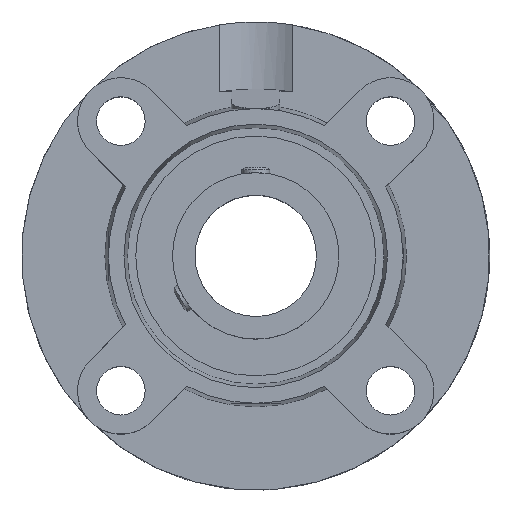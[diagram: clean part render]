
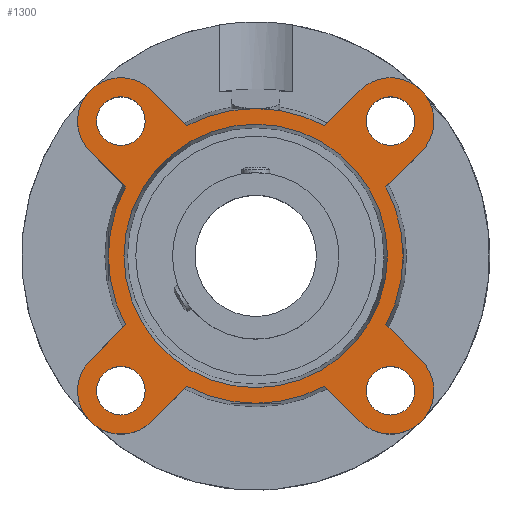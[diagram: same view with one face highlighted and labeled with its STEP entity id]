
A CAD part, top view. The second image highlights one B-rep face of the part: STEP entity #1300.
In plain terms, the highlighted planar face has unit normal (0, 0, 1).
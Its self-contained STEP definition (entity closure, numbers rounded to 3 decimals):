
#123=CARTESIAN_POINT('',(-31.891,-38.891,18.0));
#124=VERTEX_POINT('',#123);
#125=CARTESIAN_POINT('',(-38.891,-38.891,18.));
#126=DIRECTION('',(0.0,0.0,-1.0));
#127=DIRECTION('',(1.0,0.0,0.0));
#128=AXIS2_PLACEMENT_3D('',#125,#126,#127);
#129=CIRCLE('',#128,7.);
#130=EDGE_CURVE('',#124,#124,#129,.T.);
#151=CARTESIAN_POINT('',(-31.891,38.891,18.));
#152=VERTEX_POINT('',#151);
#153=CARTESIAN_POINT('',(-38.891,38.891,18.));
#154=DIRECTION('',(0.0,0.0,-1.0));
#155=DIRECTION('',(1.0,0.0,0.0));
#156=AXIS2_PLACEMENT_3D('',#153,#154,#155);
#157=CIRCLE('',#156,7.);
#158=EDGE_CURVE('',#152,#152,#157,.T.);
#179=CARTESIAN_POINT('',(45.891,38.891,18.));
#180=VERTEX_POINT('',#179);
#181=CARTESIAN_POINT('',(38.891,38.891,18.));
#182=DIRECTION('',(0.0,0.0,-1.0));
#183=DIRECTION('',(1.0,0.0,0.0));
#184=AXIS2_PLACEMENT_3D('',#181,#182,#183);
#185=CIRCLE('',#184,7.);
#186=EDGE_CURVE('',#180,#180,#185,.T.);
#207=CARTESIAN_POINT('',(45.891,-38.891,18.0));
#208=VERTEX_POINT('',#207);
#209=CARTESIAN_POINT('',(38.891,-38.891,18.));
#210=DIRECTION('',(0.0,0.0,-1.0));
#211=DIRECTION('',(1.0,0.0,0.0));
#212=AXIS2_PLACEMENT_3D('',#209,#210,#211);
#213=CIRCLE('',#212,7.);
#214=EDGE_CURVE('',#208,#208,#213,.T.);
#312=CARTESIAN_POINT('',(0.0,38.0,18.));
#313=VERTEX_POINT('',#312);
#314=CARTESIAN_POINT('',(0.0,0.,18.));
#315=DIRECTION('',(0.0,0.0,-1.0));
#316=DIRECTION('',(0.0,1.0,0.0));
#317=AXIS2_PLACEMENT_3D('',#314,#315,#316);
#318=CIRCLE('',#317,38.);
#319=EDGE_CURVE('',#313,#313,#318,.T.);
#601=CARTESIAN_POINT('',(0.,42.5,18.));
#602=VERTEX_POINT('',#601);
#756=CARTESIAN_POINT('',(-19.884,37.562,18.));
#757=VERTEX_POINT('',#756);
#771=CARTESIAN_POINT('',(0.0,0.,18.));
#772=DIRECTION('',(0.0,0.0,1.0));
#773=DIRECTION('',(0.0,-1.0,0.0));
#774=AXIS2_PLACEMENT_3D('',#771,#772,#773);
#775=CIRCLE('',#774,42.5);
#776=EDGE_CURVE('',#602,#757,#775,.T.);
#786=CARTESIAN_POINT('',(-19.884,-37.562,18.));
#787=VERTEX_POINT('',#786);
#803=CARTESIAN_POINT('',(-30.052,-47.73,18.));
#804=VERTEX_POINT('',#803);
#805=CARTESIAN_POINT('',(-19.884,-37.562,18.));
#806=DIRECTION('',(-0.707,-0.707,0.));
#807=VECTOR('',#806,14.38);
#808=LINE('',#805,#807);
#809=EDGE_CURVE('',#787,#804,#808,.T.);
#833=CARTESIAN_POINT('',(-37.562,19.884,18.));
#834=VERTEX_POINT('',#833);
#850=CARTESIAN_POINT('',(-47.73,30.052,18.));
#851=VERTEX_POINT('',#850);
#852=CARTESIAN_POINT('',(-37.562,19.884,18.));
#853=DIRECTION('',(-0.707,0.707,0.));
#854=VECTOR('',#853,14.38);
#855=LINE('',#852,#854);
#856=EDGE_CURVE('',#834,#851,#855,.T.);
#880=CARTESIAN_POINT('',(37.562,-19.884,18.0));
#881=VERTEX_POINT('',#880);
#897=CARTESIAN_POINT('',(47.73,-30.052,18.0));
#898=VERTEX_POINT('',#897);
#899=CARTESIAN_POINT('',(37.562,-19.884,18.0));
#900=DIRECTION('',(0.707,-0.707,0.));
#901=VECTOR('',#900,14.38);
#902=LINE('',#899,#901);
#903=EDGE_CURVE('',#881,#898,#902,.T.);
#927=CARTESIAN_POINT('',(19.884,37.562,18.));
#928=VERTEX_POINT('',#927);
#942=CARTESIAN_POINT('',(30.052,47.73,18.));
#943=VERTEX_POINT('',#942);
#944=CARTESIAN_POINT('',(19.884,37.562,18.));
#945=DIRECTION('',(0.707,0.707,0.));
#946=VECTOR('',#945,14.38);
#947=LINE('',#944,#946);
#948=EDGE_CURVE('',#928,#943,#947,.T.);
#967=CARTESIAN_POINT('',(37.562,19.884,18.));
#968=VERTEX_POINT('',#967);
#990=CARTESIAN_POINT('',(47.73,30.052,18.));
#991=VERTEX_POINT('',#990);
#998=CARTESIAN_POINT('',(47.73,30.052,18.));
#999=DIRECTION('',(-0.707,-0.707,0.));
#1000=VECTOR('',#999,14.38);
#1001=LINE('',#998,#1000);
#1002=EDGE_CURVE('',#991,#968,#1001,.T.);
#1012=CARTESIAN_POINT('',(-47.73,-30.052,18.0));
#1013=VERTEX_POINT('',#1012);
#1014=CARTESIAN_POINT('',(-38.891,-38.891,18.));
#1015=DIRECTION('',(0.0,0.0,-1.0));
#1016=DIRECTION('',(-0.707,0.707,0.0));
#1017=AXIS2_PLACEMENT_3D('',#1014,#1015,#1016);
#1018=CIRCLE('',#1017,12.5);
#1019=EDGE_CURVE('',#804,#1013,#1018,.T.);
#1054=CARTESIAN_POINT('',(-37.562,-19.884,18.));
#1055=VERTEX_POINT('',#1054);
#1076=CARTESIAN_POINT('',(-47.73,-30.052,18.0));
#1077=DIRECTION('',(0.707,0.707,0.));
#1078=VECTOR('',#1077,14.38);
#1079=LINE('',#1076,#1078);
#1080=EDGE_CURVE('',#1013,#1055,#1079,.T.);
#1090=CARTESIAN_POINT('',(-30.052,47.73,18.));
#1091=VERTEX_POINT('',#1090);
#1092=CARTESIAN_POINT('',(-38.891,38.891,18.));
#1093=DIRECTION('',(0.0,0.0,-1.0));
#1094=DIRECTION('',(0.707,0.707,0.0));
#1095=AXIS2_PLACEMENT_3D('',#1092,#1093,#1094);
#1096=CIRCLE('',#1095,12.5);
#1097=EDGE_CURVE('',#851,#1091,#1096,.T.);
#1125=CARTESIAN_POINT('',(-30.052,47.73,18.));
#1126=DIRECTION('',(0.707,-0.707,0.));
#1127=VECTOR('',#1126,14.38);
#1128=LINE('',#1125,#1127);
#1129=EDGE_CURVE('',#1091,#757,#1128,.T.);
#1139=CARTESIAN_POINT('',(30.052,-47.73,18.));
#1140=VERTEX_POINT('',#1139);
#1141=CARTESIAN_POINT('',(38.891,-38.891,18.));
#1142=DIRECTION('',(0.0,0.0,-1.0));
#1143=DIRECTION('',(-0.707,-0.707,0.0));
#1144=AXIS2_PLACEMENT_3D('',#1141,#1142,#1143);
#1145=CIRCLE('',#1144,12.5);
#1146=EDGE_CURVE('',#898,#1140,#1145,.T.);
#1181=CARTESIAN_POINT('',(19.884,-37.562,18.));
#1182=VERTEX_POINT('',#1181);
#1203=CARTESIAN_POINT('',(30.052,-47.73,18.));
#1204=DIRECTION('',(-0.707,0.707,0.));
#1205=VECTOR('',#1204,14.38);
#1206=LINE('',#1203,#1205);
#1207=EDGE_CURVE('',#1140,#1182,#1206,.T.);
#1217=CARTESIAN_POINT('',(38.891,38.891,18.));
#1218=DIRECTION('',(0.0,0.0,-1.0));
#1219=DIRECTION('',(0.707,-0.707,0.0));
#1220=AXIS2_PLACEMENT_3D('',#1217,#1218,#1219);
#1221=CIRCLE('',#1220,12.5);
#1222=EDGE_CURVE('',#943,#991,#1221,.T.);
#1237=CARTESIAN_POINT('',(0.0,-21.25,18.));
#1238=DIRECTION('',(0.0,0.0,1.0));
#1239=DIRECTION('',(1.0,0.0,0.0));
#1240=AXIS2_PLACEMENT_3D('',#1237,#1238,#1239);
#1241=PLANE('',#1240);
#1242=CARTESIAN_POINT('',(0.0,0.,18.));
#1243=DIRECTION('',(0.0,0.0,1.0));
#1244=DIRECTION('',(0.0,-1.0,0.0));
#1245=AXIS2_PLACEMENT_3D('',#1242,#1243,#1244);
#1246=CIRCLE('',#1245,42.5);
#1247=EDGE_CURVE('',#787,#1182,#1246,.T.);
#1248=ORIENTED_EDGE('',*,*,#1247,.T.);
#1249=ORIENTED_EDGE('',*,*,#1207,.F.);
#1250=ORIENTED_EDGE('',*,*,#1146,.F.);
#1251=ORIENTED_EDGE('',*,*,#903,.F.);
#1252=CARTESIAN_POINT('',(0.0,0.,18.));
#1253=DIRECTION('',(0.0,0.0,1.0));
#1254=DIRECTION('',(0.0,-1.0,0.0));
#1255=AXIS2_PLACEMENT_3D('',#1252,#1253,#1254);
#1256=CIRCLE('',#1255,42.5);
#1257=EDGE_CURVE('',#881,#968,#1256,.T.);
#1258=ORIENTED_EDGE('',*,*,#1257,.T.);
#1259=ORIENTED_EDGE('',*,*,#1002,.F.);
#1260=ORIENTED_EDGE('',*,*,#1222,.F.);
#1261=ORIENTED_EDGE('',*,*,#948,.F.);
#1262=CARTESIAN_POINT('',(0.0,0.,18.));
#1263=DIRECTION('',(0.0,0.0,1.0));
#1264=DIRECTION('',(0.0,-1.0,0.0));
#1265=AXIS2_PLACEMENT_3D('',#1262,#1263,#1264);
#1266=CIRCLE('',#1265,42.5);
#1267=EDGE_CURVE('',#928,#602,#1266,.T.);
#1268=ORIENTED_EDGE('',*,*,#1267,.T.);
#1269=ORIENTED_EDGE('',*,*,#776,.T.);
#1270=ORIENTED_EDGE('',*,*,#1129,.F.);
#1271=ORIENTED_EDGE('',*,*,#1097,.F.);
#1272=ORIENTED_EDGE('',*,*,#856,.F.);
#1273=CARTESIAN_POINT('',(0.0,0.,18.));
#1274=DIRECTION('',(0.0,0.0,1.0));
#1275=DIRECTION('',(0.0,-1.0,0.0));
#1276=AXIS2_PLACEMENT_3D('',#1273,#1274,#1275);
#1277=CIRCLE('',#1276,42.5);
#1278=EDGE_CURVE('',#834,#1055,#1277,.T.);
#1279=ORIENTED_EDGE('',*,*,#1278,.T.);
#1280=ORIENTED_EDGE('',*,*,#1080,.F.);
#1281=ORIENTED_EDGE('',*,*,#1019,.F.);
#1282=ORIENTED_EDGE('',*,*,#809,.F.);
#1283=EDGE_LOOP('',(#1248,#1249,#1250,#1251,#1258,#1259,#1260,#1261,#1268,#1269,#1270,#1271,#1272,#1279,#1280,#1281,#1282));
#1284=FACE_OUTER_BOUND('',#1283,.T.);
#1285=ORIENTED_EDGE('',*,*,#130,.T.);
#1286=EDGE_LOOP('',(#1285));
#1287=FACE_BOUND('',#1286,.T.);
#1288=ORIENTED_EDGE('',*,*,#158,.T.);
#1289=EDGE_LOOP('',(#1288));
#1290=FACE_BOUND('',#1289,.T.);
#1291=ORIENTED_EDGE('',*,*,#186,.T.);
#1292=EDGE_LOOP('',(#1291));
#1293=FACE_BOUND('',#1292,.T.);
#1294=ORIENTED_EDGE('',*,*,#214,.T.);
#1295=EDGE_LOOP('',(#1294));
#1296=FACE_BOUND('',#1295,.T.);
#1297=ORIENTED_EDGE('',*,*,#319,.T.);
#1298=EDGE_LOOP('',(#1297));
#1299=FACE_BOUND('',#1298,.T.);
#1300=ADVANCED_FACE('',(#1284,#1287,#1290,#1293,#1296,#1299),#1241,.T.);
